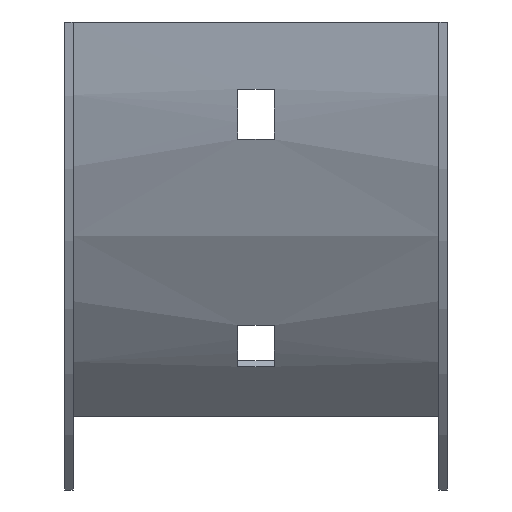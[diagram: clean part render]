
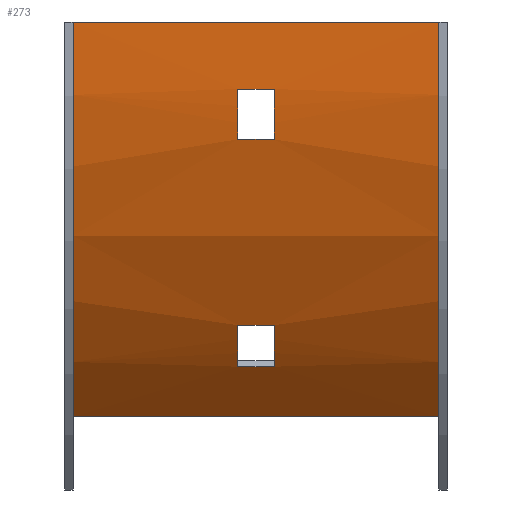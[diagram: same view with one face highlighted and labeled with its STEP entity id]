
A CAD part, front view. The second image highlights one B-rep face of the part: STEP entity #273.
In plain terms, the highlighted cylindrical face has radius 100 mm (diameter 200 mm), a partial arc.
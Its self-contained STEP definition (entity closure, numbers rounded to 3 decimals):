
#7 = CARTESIAN_POINT ( 'NONE',  ( -3.25, 0.73, -21. ) ) ;
#12 = DIRECTION ( 'NONE',  ( -1., 0., 0. ) ) ;
#13 = AXIS2_PLACEMENT_3D ( 'NONE', #530, #446, #399 ) ;
#14 = ORIENTED_EDGE ( 'NONE', *, *, #183, .T. ) ;
#21 = CYLINDRICAL_SURFACE ( 'NONE', #13, 100. ) ;
#25 = CARTESIAN_POINT ( 'NONE',  ( -3.25, 98.5, 0. ) ) ;
#33 = VERTEX_POINT ( 'NONE', #367 ) ;
#46 = EDGE_CURVE ( 'NONE', #250, #514, #82, .T. ) ;
#54 = EDGE_CURVE ( 'NONE', #156, #397, #593, .T. ) ;
#55 = CARTESIAN_POINT ( 'NONE',  ( -3.25, 98.5, 0. ) ) ;
#56 = ORIENTED_EDGE ( 'NONE', *, *, #583, .F. ) ;
#65 = VECTOR ( 'NONE', #160, 1000. ) ;
#77 = CIRCLE ( 'NONE', #416, 100. ) ;
#78 = VERTEX_POINT ( 'NONE', #88 ) ;
#82 = LINE ( 'NONE', #596, #457 ) ;
#88 = CARTESIAN_POINT ( 'NONE',  ( -3.25, 14.517, -54.285 ) ) ;
#99 = LINE ( 'NONE', #298, #65 ) ;
#102 = CIRCLE ( 'NONE', #450, 100. ) ;
#106 = DIRECTION ( 'NONE',  ( 0., 0., 1. ) ) ;
#111 = AXIS2_PLACEMENT_3D ( 'NONE', #470, #297, #528 ) ;
#114 = DIRECTION ( 'NONE',  ( -1., 0., 0. ) ) ;
#115 = EDGE_LOOP ( 'NONE', ( #56, #372, #462, #434 ) ) ;
#116 = CARTESIAN_POINT ( 'NONE',  ( 3.25, 98.5, 0. ) ) ;
#120 = CIRCLE ( 'NONE', #332, 100. ) ;
#128 = CARTESIAN_POINT ( 'NONE',  ( 34.25, 0.73, -21. ) ) ;
#155 = CARTESIAN_POINT ( 'NONE',  ( -32.75, 98.5, 0. ) ) ;
#156 = VERTEX_POINT ( 'NONE', #7 ) ;
#160 = DIRECTION ( 'NONE',  ( -1., 0., 0. ) ) ;
#164 = EDGE_CURVE ( 'NONE', #464, #250, #379, .T. ) ;
#168 = VERTEX_POINT ( 'NONE', #331 ) ;
#169 = DIRECTION ( 'NONE',  ( 1., 0., 0. ) ) ;
#170 = DIRECTION ( 'NONE',  ( -1., 0., 0. ) ) ;
#180 = CARTESIAN_POINT ( 'NONE',  ( 32.75, 98.5, 0. ) ) ;
#182 = DIRECTION ( 'NONE',  ( -1., 0., 0. ) ) ;
#183 = EDGE_CURVE ( 'NONE', #514, #78, #77, .T. ) ;
#186 = VECTOR ( 'NONE', #389, 1000. ) ;
#200 = DIRECTION ( 'NONE',  ( -1., 0., 0. ) ) ;
#205 = VECTOR ( 'NONE', #418, 1000. ) ;
#206 = CARTESIAN_POINT ( 'NONE',  ( 32.75, 27.789, -70.711 ) ) ;
#219 = CARTESIAN_POINT ( 'NONE',  ( 32.75, -1.5, 0. ) ) ;
#222 = VERTEX_POINT ( 'NONE', #219 ) ;
#231 = LINE ( 'NONE', #413, #508 ) ;
#246 = CARTESIAN_POINT ( 'NONE',  ( 34.25, 14.517, -54.285 ) ) ;
#249 = EDGE_CURVE ( 'NONE', #397, #510, #370, .T. ) ;
#250 = VERTEX_POINT ( 'NONE', #537 ) ;
#258 = LINE ( 'NONE', #246, #186 ) ;
#267 = AXIS2_PLACEMENT_3D ( 'NONE', #116, #170, #311 ) ;
#270 = EDGE_CURVE ( 'NONE', #600, #168, #522, .T. ) ;
#271 = EDGE_LOOP ( 'NONE', ( #586, #14, #513, #347 ) ) ;
#273 = ADVANCED_FACE ( 'NONE', ( #356, #436, #541 ), #21, .T. ) ;
#278 = VECTOR ( 'NONE', #12, 1000. ) ;
#288 = EDGE_CURVE ( 'NONE', #355, #600, #396, .T. ) ;
#297 = DIRECTION ( 'NONE',  ( 1., 0., 0. ) ) ;
#298 = CARTESIAN_POINT ( 'NONE',  ( 32.75, -1.5, 0. ) ) ;
#311 = DIRECTION ( 'NONE',  ( 0., 0., -1. ) ) ;
#325 = ORIENTED_EDGE ( 'NONE', *, *, #440, .T. ) ;
#331 = CARTESIAN_POINT ( 'NONE',  ( -32.75, -1.5, 0. ) ) ;
#332 = AXIS2_PLACEMENT_3D ( 'NONE', #180, #479, #106 ) ;
#334 = CARTESIAN_POINT ( 'NONE',  ( 3.25, 0.73, -21. ) ) ;
#339 = DIRECTION ( 'NONE',  ( 0., 0., -1. ) ) ;
#346 = DIRECTION ( 'NONE',  ( 0., 0., 1. ) ) ;
#347 = ORIENTED_EDGE ( 'NONE', *, *, #164, .T. ) ;
#355 = VERTEX_POINT ( 'NONE', #453 ) ;
#356 = FACE_BOUND ( 'NONE', #115, .T. ) ;
#357 = EDGE_LOOP ( 'NONE', ( #452, #499, #325, #548 ) ) ;
#358 = EDGE_CURVE ( 'NONE', #510, #33, #231, .T. ) ;
#367 = CARTESIAN_POINT ( 'NONE',  ( -3.25, -0.777, -12. ) ) ;
#370 = CIRCLE ( 'NONE', #267, 100. ) ;
#372 = ORIENTED_EDGE ( 'NONE', *, *, #358, .F. ) ;
#379 = CIRCLE ( 'NONE', #111, 100. ) ;
#389 = DIRECTION ( 'NONE',  ( 1., 0., 0. ) ) ;
#396 = LINE ( 'NONE', #206, #278 ) ;
#397 = VERTEX_POINT ( 'NONE', #334 ) ;
#399 = DIRECTION ( 'NONE',  ( 0., 0., 1. ) ) ;
#413 = CARTESIAN_POINT ( 'NONE',  ( 34.25, -0.777, -12. ) ) ;
#416 = AXIS2_PLACEMENT_3D ( 'NONE', #55, #200, #339 ) ;
#418 = DIRECTION ( 'NONE',  ( 1., 0., 0. ) ) ;
#434 = ORIENTED_EDGE ( 'NONE', *, *, #54, .F. ) ;
#436 = FACE_OUTER_BOUND ( 'NONE', #357, .T. ) ;
#440 = EDGE_CURVE ( 'NONE', #355, #222, #120, .T. ) ;
#446 = DIRECTION ( 'NONE',  ( -1., 0., 0. ) ) ;
#447 = CARTESIAN_POINT ( 'NONE',  ( -32.75, 27.789, -70.711 ) ) ;
#450 = AXIS2_PLACEMENT_3D ( 'NONE', #25, #169, #503 ) ;
#452 = ORIENTED_EDGE ( 'NONE', *, *, #270, .F. ) ;
#453 = CARTESIAN_POINT ( 'NONE',  ( 32.75, 27.789, -70.711 ) ) ;
#457 = VECTOR ( 'NONE', #182, 1000. ) ;
#462 = ORIENTED_EDGE ( 'NONE', *, *, #249, .F. ) ;
#464 = VERTEX_POINT ( 'NONE', #485 ) ;
#470 = CARTESIAN_POINT ( 'NONE',  ( 3.25, 98.5, 0. ) ) ;
#479 = DIRECTION ( 'NONE',  ( -1., 0., 0. ) ) ;
#485 = CARTESIAN_POINT ( 'NONE',  ( 3.25, 14.517, -54.285 ) ) ;
#499 = ORIENTED_EDGE ( 'NONE', *, *, #288, .F. ) ;
#503 = DIRECTION ( 'NONE',  ( 0., 0., 1. ) ) ;
#508 = VECTOR ( 'NONE', #545, 1000. ) ;
#510 = VERTEX_POINT ( 'NONE', #578 ) ;
#512 = EDGE_CURVE ( 'NONE', #222, #168, #99, .T. ) ;
#513 = ORIENTED_EDGE ( 'NONE', *, *, #527, .T. ) ;
#514 = VERTEX_POINT ( 'NONE', #520 ) ;
#520 = CARTESIAN_POINT ( 'NONE',  ( -3.25, 19.815, -61.714 ) ) ;
#522 = CIRCLE ( 'NONE', #536, 100. ) ;
#527 = EDGE_CURVE ( 'NONE', #78, #464, #258, .T. ) ;
#528 = DIRECTION ( 'NONE',  ( 0., 0., 1. ) ) ;
#530 = CARTESIAN_POINT ( 'NONE',  ( 34.25, 98.5, 0. ) ) ;
#536 = AXIS2_PLACEMENT_3D ( 'NONE', #155, #114, #346 ) ;
#537 = CARTESIAN_POINT ( 'NONE',  ( 3.25, 19.815, -61.714 ) ) ;
#541 = FACE_BOUND ( 'NONE', #271, .T. ) ;
#545 = DIRECTION ( 'NONE',  ( -1., 0., 0. ) ) ;
#548 = ORIENTED_EDGE ( 'NONE', *, *, #512, .T. ) ;
#578 = CARTESIAN_POINT ( 'NONE',  ( 3.25, -0.777, -12. ) ) ;
#583 = EDGE_CURVE ( 'NONE', #33, #156, #102, .T. ) ;
#586 = ORIENTED_EDGE ( 'NONE', *, *, #46, .T. ) ;
#593 = LINE ( 'NONE', #128, #205 ) ;
#596 = CARTESIAN_POINT ( 'NONE',  ( 34.25, 19.815, -61.714 ) ) ;
#600 = VERTEX_POINT ( 'NONE', #447 ) ;
